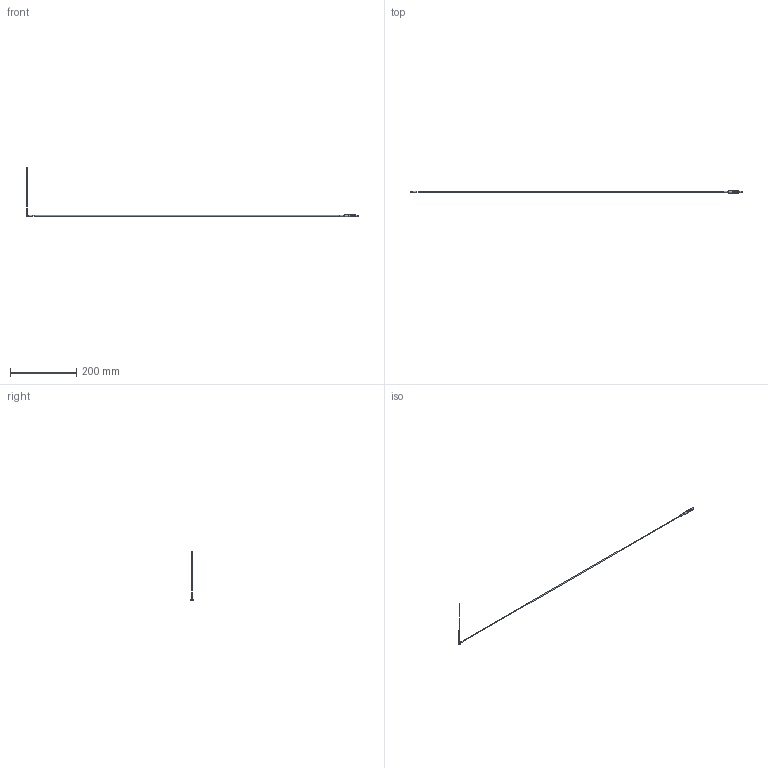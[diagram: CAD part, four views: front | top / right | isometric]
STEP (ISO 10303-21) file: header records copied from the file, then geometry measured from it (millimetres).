
FILE_DESCRIPTION( ( 'STEP AP214' ), '1' );
FILE_NAME( 'L:/99_users/sasakiyu/kari/3Dモデル/圧力/SSE_エジェクタピン形/SSEBQ_010X150.step', '2018-07-12T05:23:29', ( ' ' ), ( ' ' ), 'XStep 1.0', ' ', ' ' );
FILE_SCHEMA( ( 'automotive_design' ) );
Length unit declared in the file: millimetre
Products named in the file (1): 1
Bounding box: 1006 x 6.4 x 151.2 mm (x, y, z)
Volume: 6440.5 mm3; surface area: 9249.6 mm2
Topology: 1 solids, 1 shells, 70 faces, 156 edges, 101 vertices
Faces by surface type: cylinder 25, plane 24, cone 9, torus 8, bspline 4
Full cylindrical faces by diameter (mm): 1 x1, 2 x1, 2.5 x1, 2.8 x1, 3.4 x1, 4.95 x1, 5 x1, 5.35 x1, 6 x3, 6.2 x1, 6.35 x2, 6.4 x1
Entity records: 3158 total; most frequent: CARTESIAN_POINT 1263, DIRECTION 270, ORIENTED_EDGE 230, AXIS2_PLACEMENT_3D 125, EDGE_CURVE 115, EDGE_LOOP 109, FACE_OUTER_BOUND 89, VERTEX_POINT 86
